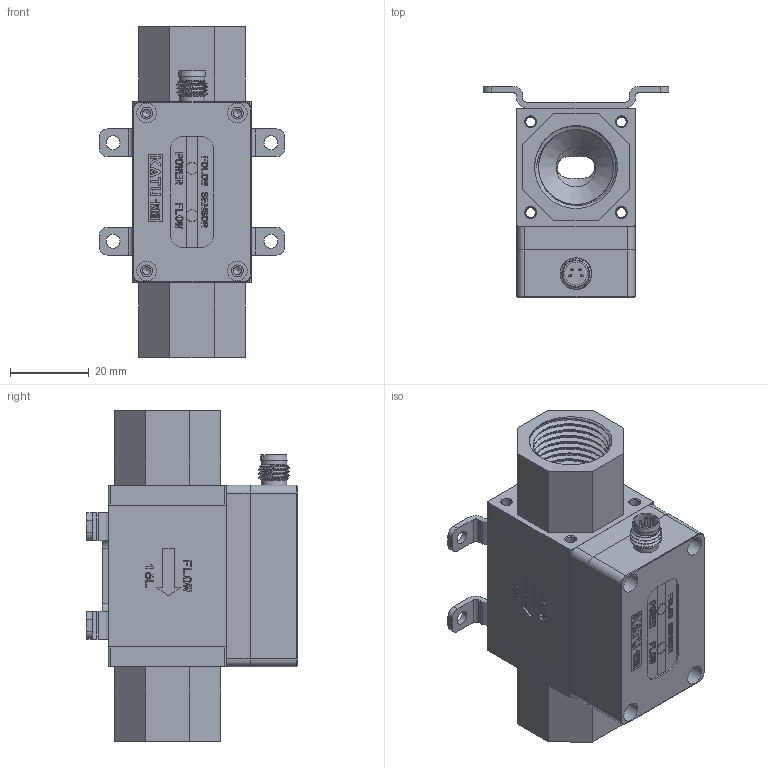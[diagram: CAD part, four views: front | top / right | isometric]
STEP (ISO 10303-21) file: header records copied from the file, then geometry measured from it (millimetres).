
FILE_DESCRIPTION( (''), '2;1');
FILE_NAME( 'QEKJ_16L_R1-2_M12_bracket.step', '2023-12-14T18:14:41+08:00', (''), (''), '', '', '');
FILE_SCHEMA (('AUTOMOTIVE_DESIGN { 1 0 10303 214 3 1 1 1 }'));
Length unit declared in the file: millimetre
Products named in the file (1): QEKJ 16L_R1-2_M12_bracket
Bounding box: 47 x 53.5 x 84 mm (x, y, z)
Volume: 50006 mm3; surface area: 46551 mm2
Topology: 9 solids, 10 shells, 1304 faces, 3523 edges, 2335 vertices
Faces by surface type: plane 842, cylinder 280, extrusion 105, cone 61, bspline 8, sphere 4, torus 4
Full cylindrical faces by diameter (mm): 0.6 x4, 1.5 x4, 1.6 x2, 1.7 x1, 1.8 x1, 2 x4, 2.05 x8, 2.2 x4, 2.3 x4, 2.5 x12, 3 x17, 3.5 x6, 4 x4, 4.5 x4, 5 x4, 5.5 x2, 5.8 x1, 6 x2, 6.5 x2, 7 x1, 7.5 x2, 8.5 x1, 10 x2, 15 x2, 19 x2, 20 x2
Entity records: 45483 total; most frequent: CARTESIAN_POINT 13538, ORIENTED_EDGE 6572, DIRECTION 6055, EDGE_CURVE 3286, VECTOR 2469, LINE 2364, VERTEX_POINT 2257, AXIS2_PLACEMENT_3D 1793
